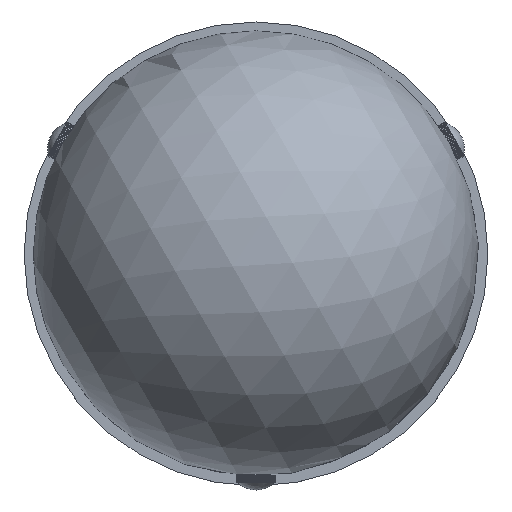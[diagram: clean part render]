
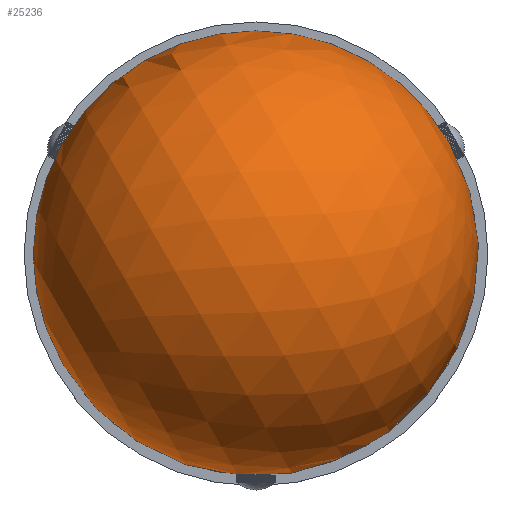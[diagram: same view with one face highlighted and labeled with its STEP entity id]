
A CAD part, top view. The second image highlights one B-rep face of the part: STEP entity #25236.
In plain terms, the highlighted spherical face has radius 60 mm.
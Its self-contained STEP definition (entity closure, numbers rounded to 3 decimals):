
#424=FACE_BOUND('',#4807,.T.);
#431=SPHERICAL_SURFACE('',#27366,60.);
#3282=FACE_OUTER_BOUND('',#4806,.T.);
#4806=EDGE_LOOP('',(#23520,#23521));
#4807=EDGE_LOOP('',(#23522));
#11046=CIRCLE('',#27365,59.537);
#11047=CIRCLE('',#27367,60.);
#13313=VERTEX_POINT('',#42492);
#13314=VERTEX_POINT('',#42496);
#13315=VERTEX_POINT('',#42497);
#16719=EDGE_CURVE('',#13313,#13313,#11046,.T.);
#16720=EDGE_CURVE('',#13314,#13315,#11047,.T.);
#23520=ORIENTED_EDGE('',*,*,#16720,.T.);
#23521=ORIENTED_EDGE('',*,*,#16720,.F.);
#23522=ORIENTED_EDGE('',*,*,#16719,.F.);
#25236=ADVANCED_FACE('',(#3282,#424),#431,.T.);
#27365=AXIS2_PLACEMENT_3D('',#42494,#34116,#34117);
#27366=AXIS2_PLACEMENT_3D('',#42495,#34118,#34119);
#27367=AXIS2_PLACEMENT_3D('',#42498,#34120,#34121);
#34116=DIRECTION('center_axis',(0.,0.,
-1.));
#34117=DIRECTION('ref_axis',(-0.5,0.866,0.));
#34118=DIRECTION('center_axis',(-0.866,-0.5,0.));
#34119=DIRECTION('ref_axis',(0.5,-0.866,0.));
#34120=DIRECTION('center_axis',(0.,0.,
-1.));
#34121=DIRECTION('ref_axis',(-0.5,0.866,0.));
#42492=CARTESIAN_POINT('',(-51.56,-29.768,73.599));
#42494=CARTESIAN_POINT('Origin',(0.,0.,
73.599));
#42495=CARTESIAN_POINT('Origin',(0.,0.,
81.04));
#42496=CARTESIAN_POINT('',(-51.962,-30.,81.04));
#42497=CARTESIAN_POINT('',(51.962,30.,81.04));
#42498=CARTESIAN_POINT('Origin',(0.,0.,
81.04));
